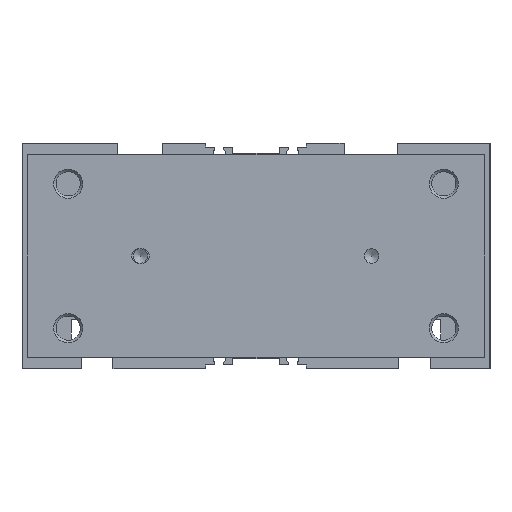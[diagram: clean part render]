
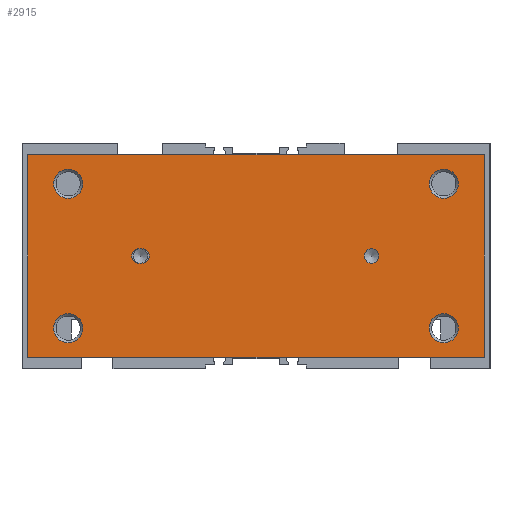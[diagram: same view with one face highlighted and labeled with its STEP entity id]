
A CAD part, left-side view. The second image highlights one B-rep face of the part: STEP entity #2915.
In plain terms, the highlighted planar face has unit normal (-1, 0, 0) as drawn and (0, 0, 1) by its records, which use the part's own axes.
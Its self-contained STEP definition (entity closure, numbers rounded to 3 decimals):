
#233=CIRCLE('',#3232,5.);
#234=CIRCLE('',#3233,5.);
#235=CIRCLE('',#3234,5.);
#236=CIRCLE('',#3235,5.);
#237=CIRCLE('',#3236,2.5);
#238=CIRCLE('',#3237,2.5);
#239=CIRCLE('',#3238,2.5);
#846=ORIENTED_EDGE('',*,*,#1270,.F.);
#847=ORIENTED_EDGE('',*,*,#1271,.F.);
#848=ORIENTED_EDGE('',*,*,#1272,.F.);
#849=ORIENTED_EDGE('',*,*,#1273,.F.);
#850=ORIENTED_EDGE('',*,*,#1274,.F.);
#851=ORIENTED_EDGE('',*,*,#1275,.F.);
#852=ORIENTED_EDGE('',*,*,#1276,.F.);
#853=ORIENTED_EDGE('',*,*,#1277,.F.);
#854=ORIENTED_EDGE('',*,*,#1278,.F.);
#855=ORIENTED_EDGE('',*,*,#1251,.T.);
#856=ORIENTED_EDGE('',*,*,#1255,.T.);
#857=ORIENTED_EDGE('',*,*,#1258,.T.);
#858=ORIENTED_EDGE('',*,*,#1261,.T.);
#1251=EDGE_CURVE('',#1546,#1547,#1801,.T.);
#1255=EDGE_CURVE('',#1547,#1550,#1805,.T.);
#1258=EDGE_CURVE('',#1550,#1552,#1808,.T.);
#1261=EDGE_CURVE('',#1552,#1546,#1811,.T.);
#1270=EDGE_CURVE('',#1561,#1561,#233,.T.);
#1271=EDGE_CURVE('',#1562,#1562,#234,.T.);
#1272=EDGE_CURVE('',#1563,#1563,#235,.T.);
#1273=EDGE_CURVE('',#1564,#1564,#236,.T.);
#1274=EDGE_CURVE('',#1565,#1565,#237,.T.);
#1275=EDGE_CURVE('',#1566,#1567,#238,.T.);
#1276=EDGE_CURVE('',#1568,#1566,#1813,.T.);
#1277=EDGE_CURVE('',#1569,#1568,#239,.T.);
#1278=EDGE_CURVE('',#1567,#1569,#1814,.T.);
#1546=VERTEX_POINT('',#4799);
#1547=VERTEX_POINT('',#4800);
#1550=VERTEX_POINT('',#4808);
#1552=VERTEX_POINT('',#4814);
#1561=VERTEX_POINT('',#4838);
#1562=VERTEX_POINT('',#4840);
#1563=VERTEX_POINT('',#4842);
#1564=VERTEX_POINT('',#4844);
#1565=VERTEX_POINT('',#4846);
#1566=VERTEX_POINT('',#4848);
#1567=VERTEX_POINT('',#4849);
#1568=VERTEX_POINT('',#4851);
#1569=VERTEX_POINT('',#4853);
#1801=LINE('',#4798,#2033);
#1805=LINE('',#4807,#2037);
#1808=LINE('',#4813,#2040);
#1811=LINE('',#4819,#2043);
#1813=LINE('',#4850,#2045);
#1814=LINE('',#4854,#2046);
#2033=VECTOR('',#3949,1000.);
#2037=VECTOR('',#3955,1000.);
#2040=VECTOR('',#3960,1000.);
#2043=VECTOR('',#3965,1000.);
#2045=VECTOR('',#3997,1000.);
#2046=VECTOR('',#4000,1000.);
#2295=EDGE_LOOP('',(#846));
#2296=EDGE_LOOP('',(#847));
#2297=EDGE_LOOP('',(#848));
#2298=EDGE_LOOP('',(#849));
#2299=EDGE_LOOP('',(#850));
#2300=EDGE_LOOP('',(#851,#852,#853,#854));
#2301=EDGE_LOOP('',(#855,#856,#857,#858));
#2601=FACE_BOUND('',#2295,.T.);
#2602=FACE_BOUND('',#2296,.T.);
#2603=FACE_BOUND('',#2297,.T.);
#2604=FACE_BOUND('',#2298,.T.);
#2605=FACE_BOUND('',#2299,.T.);
#2606=FACE_BOUND('',#2300,.T.);
#2607=FACE_BOUND('',#2301,.T.);
#2756=PLANE('',#3231);
#2915=ADVANCED_FACE('',(#2601,#2602,#2603,#2604,#2605,#2606,#2607),#2756,
 .T.);
#3231=AXIS2_PLACEMENT_3D('',#4836,#3983,#3984);
#3232=AXIS2_PLACEMENT_3D('',#4837,#3985,#3986);
#3233=AXIS2_PLACEMENT_3D('',#4839,#3987,#3988);
#3234=AXIS2_PLACEMENT_3D('',#4841,#3989,#3990);
#3235=AXIS2_PLACEMENT_3D('',#4843,#3991,#3992);
#3236=AXIS2_PLACEMENT_3D('',#4845,#3993,#3994);
#3237=AXIS2_PLACEMENT_3D('',#4847,#3995,#3996);
#3238=AXIS2_PLACEMENT_3D('',#4852,#3998,#3999);
#3949=DIRECTION('',(0.,-1.,0.));
#3955=DIRECTION('',(1.,0.,0.));
#3960=DIRECTION('',(0.,1.,0.));
#3965=DIRECTION('',(-1.,0.,0.));
#3983=DIRECTION('',(0.,0.,1.));
#3984=DIRECTION('',(1.,0.,0.));
#3985=DIRECTION('',(0.,0.,1.));
#3986=DIRECTION('',(1.,0.,0.));
#3987=DIRECTION('',(0.,0.,1.));
#3988=DIRECTION('',(1.,0.,0.));
#3989=DIRECTION('',(0.,0.,1.));
#3990=DIRECTION('',(1.,0.,0.));
#3991=DIRECTION('',(0.,0.,1.));
#3992=DIRECTION('',(1.,0.,0.));
#3993=DIRECTION('',(0.,0.,1.));
#3994=DIRECTION('',(1.,0.,0.));
#3995=DIRECTION('',(0.,0.,1.));
#3996=DIRECTION('',(1.,0.,0.));
#3997=DIRECTION('',(0.,1.,0.));
#3998=DIRECTION('',(0.,0.,1.));
#3999=DIRECTION('',(1.,0.,0.));
#4000=DIRECTION('',(0.,-1.,0.));
#4798=CARTESIAN_POINT('',(-35.,79.,28.));
#4799=CARTESIAN_POINT('',(-35.,79.,28.));
#4800=CARTESIAN_POINT('',(-35.,-79.,28.));
#4807=CARTESIAN_POINT('',(-35.,-79.,28.));
#4808=CARTESIAN_POINT('',(35.,-79.,28.));
#4813=CARTESIAN_POINT('',(35.,-79.,28.));
#4814=CARTESIAN_POINT('',(35.,79.,28.));
#4819=CARTESIAN_POINT('',(35.,79.,28.));
#4836=CARTESIAN_POINT('',(0.,0.,28.));
#4837=CARTESIAN_POINT('',(-25.,65.,28.));
#4838=CARTESIAN_POINT('',(-20.,65.,28.));
#4839=CARTESIAN_POINT('',(25.,65.,28.));
#4840=CARTESIAN_POINT('',(30.,65.,28.));
#4841=CARTESIAN_POINT('',(-25.,-65.,28.));
#4842=CARTESIAN_POINT('',(-20.,-65.,28.));
#4843=CARTESIAN_POINT('',(25.,-65.,28.));
#4844=CARTESIAN_POINT('',(30.,-65.,28.));
#4845=CARTESIAN_POINT('',(0.,-40.,28.));
#4846=CARTESIAN_POINT('',(2.5,-40.,28.));
#4847=CARTESIAN_POINT('',(0.,40.5,28.));
#4848=CARTESIAN_POINT('',(2.5,40.5,28.));
#4849=CARTESIAN_POINT('',(-2.5,40.5,28.));
#4850=CARTESIAN_POINT('',(2.5,39.5,28.));
#4851=CARTESIAN_POINT('',(2.5,39.5,28.));
#4852=CARTESIAN_POINT('',(0.,39.5,28.));
#4853=CARTESIAN_POINT('',(-2.5,39.5,28.));
#4854=CARTESIAN_POINT('',(-2.5,40.5,28.));
